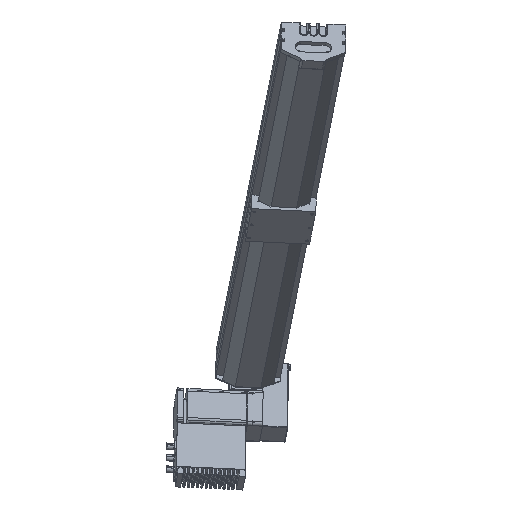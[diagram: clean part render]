
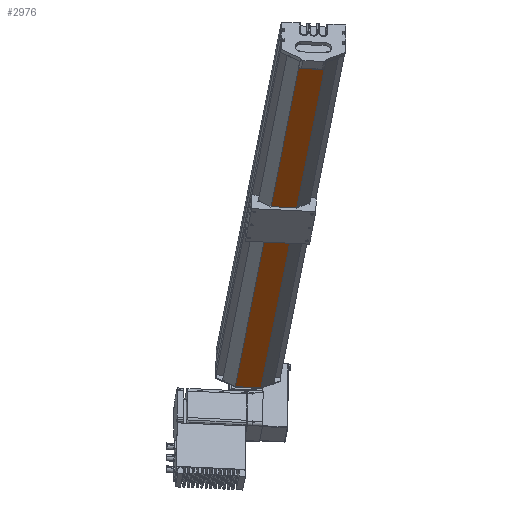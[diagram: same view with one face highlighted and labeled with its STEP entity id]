
A CAD part, isometric view. The second image highlights one B-rep face of the part: STEP entity #2976.
In plain terms, the highlighted planar face has unit normal (-0.632, -0.625, -0.459) as drawn and (0, 1, 0) by its records, which use the part's own axes.
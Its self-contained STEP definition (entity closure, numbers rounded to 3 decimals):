
#2185 = EDGE_CURVE ( 'NONE', #2193, #2191, #10016, .T. ) ;
#2191 = VERTEX_POINT ( 'NONE', #10007 ) ;
#2193 = VERTEX_POINT ( 'NONE', #10012 ) ;
#2197 = ORIENTED_EDGE ( 'NONE', *, *, #3558, .F. ) ;
#2575 = ORIENTED_EDGE ( 'NONE', *, *, #3756, .F. ) ;
#2955 = EDGE_LOOP ( 'NONE', ( #3210, #2197, #3009, #2575, #3718 ) ) ;
#2976 = ADVANCED_FACE ( 'NONE', ( #10518 ), #10493, .F. ) ;
#3009 = ORIENTED_EDGE ( 'NONE', *, *, #2185, .F. ) ;
#3210 = ORIENTED_EDGE ( 'NONE', *, *, #3522, .T. ) ;
#3513 = VERTEX_POINT ( 'NONE', #10931 ) ;
#3519 = VERTEX_POINT ( 'NONE', #10883 ) ;
#3522 = EDGE_CURVE ( 'NONE', #3513, #3519, #10932, .T. ) ;
#3558 = EDGE_CURVE ( 'NONE', #2191, #3519, #11081, .T. ) ;
#3670 = VERTEX_POINT ( 'NONE', #11235 ) ;
#3718 = ORIENTED_EDGE ( 'NONE', *, *, #3744, .T. ) ;
#3744 = EDGE_CURVE ( 'NONE', #3670, #3513, #11408, .T. ) ;
#3756 = EDGE_CURVE ( 'NONE', #3670, #2193, #11444, .T. ) ;
#10007 = CARTESIAN_POINT ( 'NONE',  ( -20., 61.75, 1099.614 ) ) ;
#10008 = DIRECTION ( 'NONE',  ( 0., 0., -1. ) ) ;
#10009 = VECTOR ( 'NONE', #10008, 1000. ) ;
#10010 = CARTESIAN_POINT ( 'NONE',  ( -20., 61.75, 1100. ) ) ;
#10012 = CARTESIAN_POINT ( 'NONE',  ( -20., 61.75, 1100. ) ) ;
#10016 = LINE ( 'NONE', #10010, #10009 ) ;
#10493 = PLANE ( 'NONE',  #10500 ) ;
#10500 = AXIS2_PLACEMENT_3D ( 'NONE', #10548, #10547, #10546 ) ;
#10518 = FACE_OUTER_BOUND ( 'NONE', #2955, .T. ) ;
#10546 = DIRECTION ( 'NONE',  ( 0., 0., -1. ) ) ;
#10547 = DIRECTION ( 'NONE',  ( 0., -1., 0. ) ) ;
#10548 = CARTESIAN_POINT ( 'NONE',  ( 20., 61.75, 1100. ) ) ;
#10883 = CARTESIAN_POINT ( 'NONE',  ( -20., 61.75, 0. ) ) ;
#10927 = DIRECTION ( 'NONE',  ( -1., 0., 0. ) ) ;
#10928 = VECTOR ( 'NONE', #10927, 1000. ) ;
#10929 = CARTESIAN_POINT ( 'NONE',  ( 20., 61.75, 0. ) ) ;
#10931 = CARTESIAN_POINT ( 'NONE',  ( 20., 61.75, 0. ) ) ;
#10932 = LINE ( 'NONE', #10929, #10928 ) ;
#11078 = DIRECTION ( 'NONE',  ( 0., 0., -1. ) ) ;
#11079 = VECTOR ( 'NONE', #11078, 1000. ) ;
#11080 = CARTESIAN_POINT ( 'NONE',  ( -20., 61.75, 1100. ) ) ;
#11081 = LINE ( 'NONE', #11080, #11079 ) ;
#11235 = CARTESIAN_POINT ( 'NONE',  ( 20., 61.75, 1100. ) ) ;
#11402 = DIRECTION ( 'NONE',  ( 0., 0., -1. ) ) ;
#11406 = VECTOR ( 'NONE', #11402, 1000. ) ;
#11407 = CARTESIAN_POINT ( 'NONE',  ( 20., 61.75, 1100. ) ) ;
#11408 = LINE ( 'NONE', #11407, #11406 ) ;
#11437 = DIRECTION ( 'NONE',  ( -1., 0., 0. ) ) ;
#11438 = VECTOR ( 'NONE', #11437, 1000. ) ;
#11439 = CARTESIAN_POINT ( 'NONE',  ( 20., 61.75, 1100. ) ) ;
#11444 = LINE ( 'NONE', #11439, #11438 ) ;
